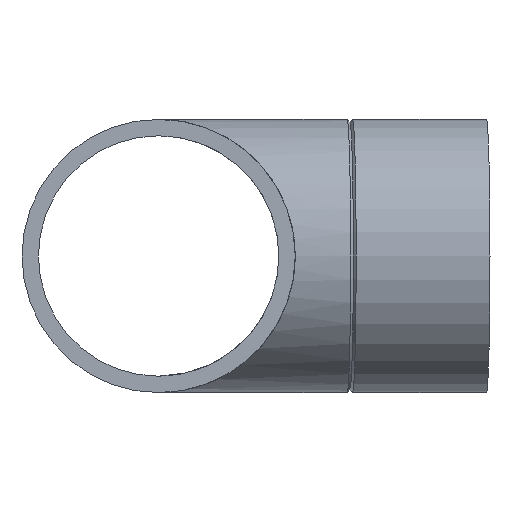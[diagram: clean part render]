
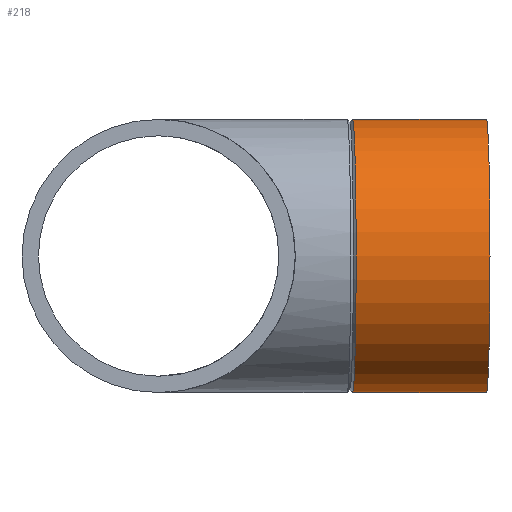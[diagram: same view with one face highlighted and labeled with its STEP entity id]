
A CAD part, front view. The second image highlights one B-rep face of the part: STEP entity #218.
In plain terms, the highlighted cylindrical face has radius 25 mm (diameter 50 mm), a full revolution.
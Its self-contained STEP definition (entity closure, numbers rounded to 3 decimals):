
#23=CYLINDRICAL_SURFACE($,#252,25.);
#37=FACE_BOUND($,#82,.T.);
#58=FACE_OUTER_BOUND($,#81,.T.);
#81=EDGE_LOOP($,(#171));
#82=EDGE_LOOP($,(#172));
#99=CIRCLE($,#238,25.);
#105=CIRCLE($,#253,25.);
#116=VERTEX_POINT($,#353);
#124=VERTEX_POINT($,#376);
#135=EDGE_CURVE($,#116,#116,#99,.T.);
#143=EDGE_CURVE($,#124,#124,#105,.T.);
#171=ORIENTED_EDGE($,*,*,#135,.T.);
#172=ORIENTED_EDGE($,*,*,#143,.T.);
#218=ADVANCED_FACE($,(#58,#37),#23,.T.);
#238=AXIS2_PLACEMENT_3D($,#354,#286,#287);
#252=AXIS2_PLACEMENT_3D($,#375,#314,#315);
#253=AXIS2_PLACEMENT_3D($,#377,#316,#317);
#286=DIRECTION('center_axis',(1.,0.026,0.));
#287=DIRECTION('ref_axis',(0.026,-1.,0.));
#314=DIRECTION('center_axis',(-1.,-0.026,0.));
#315=DIRECTION('ref_axis',(0.026,-1.,0.));
#316=DIRECTION('center_axis',(-1.,-0.026,0.));
#317=DIRECTION('ref_axis',(0.026,-1.,0.));
#353=CARTESIAN_POINT('',(36.142,65.938,0.));
#354=CARTESIAN_POINT('Origin',(35.488,90.929,0.));
#375=CARTESIAN_POINT('Origin',(59.979,91.571,0.));
#376=CARTESIAN_POINT('',(59.325,116.562,0.));
#377=CARTESIAN_POINT('Origin',(59.979,91.571,0.));
